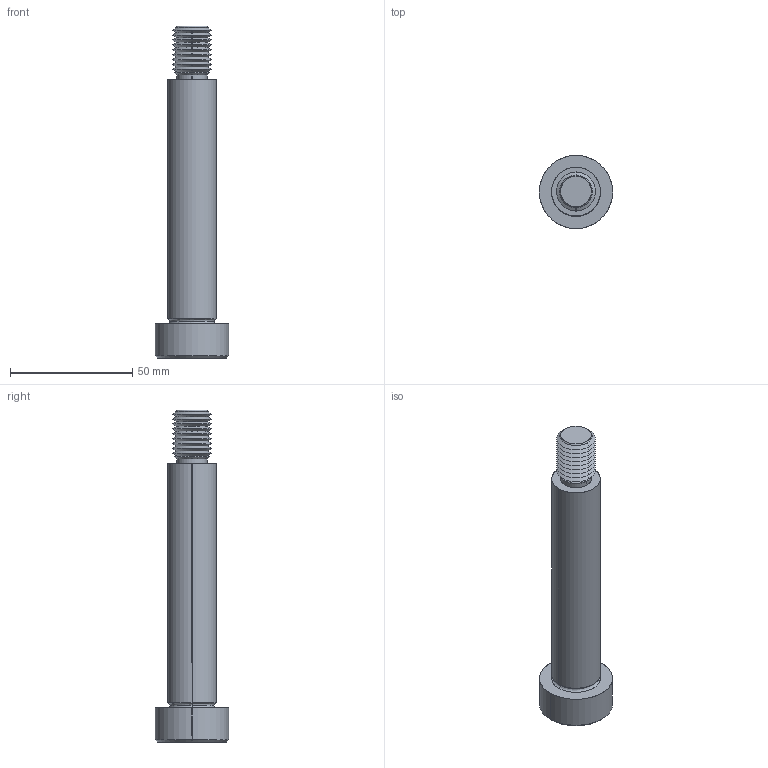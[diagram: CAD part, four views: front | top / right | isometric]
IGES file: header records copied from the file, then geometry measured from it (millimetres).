
Start section: SolidWorks IGES file using analytic representation for surfaces
Global section: file name: C:\Users\IanO\Documents\Temp Folder\GENERAL\SCREW REVISION\P0130_v2\P0130.T5_v2_20220106_IGES\P0130.200-100-T5.igs; native system: SolidWorks 2019; preprocessor: SolidWorks 2019; author: IanO; date: 220106.230346; units: millimetre
Bounding box: 30 x 30 x 136 mm (x, y, z)
Surface area: 11201.2 mm2 (no closed solid volume)
Topology: 0 solids, 0 shells, 80 faces, 692 edges, 690 vertices
Faces by surface type: revolution 60, bspline 20
